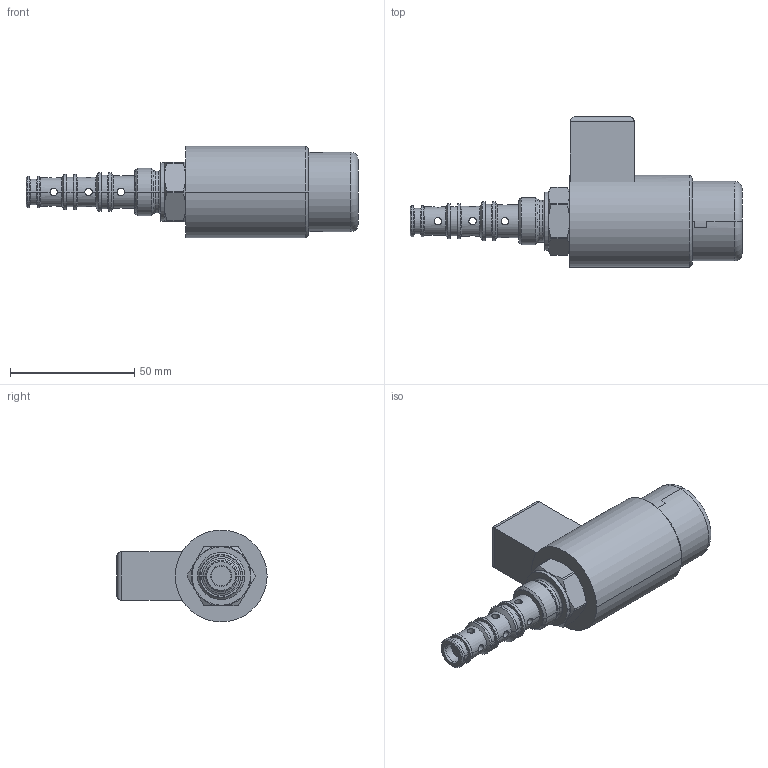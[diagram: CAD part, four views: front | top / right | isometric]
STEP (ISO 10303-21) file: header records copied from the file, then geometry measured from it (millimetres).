
FILE_DESCRIPTION((''),'2;1');
FILE_NAME('SD2E_A4_H','2011-03-14T',('tvatras'),(''),'PRO/ENGINEER BY PARAMETRIC TECHNOLOGY CORPORATION, 2010180','PRO/ENGINEER BY PARAMETRIC TECHNOLOGY CORPORATION, 2010180','');
FILE_SCHEMA(('CONFIG_CONTROL_DESIGN'));
Length unit declared in the file: millimetre
Products named in the file (1): SD2E_A4_H
Bounding box: 133.65 x 60.5 x 37 mm (x, y, z)
Volume: 93651.9 mm3; surface area: 16503.4 mm2
Topology: 1 solids, 2 shells, 147 faces, 347 edges, 203 vertices
Faces by surface type: cylinder 72, cone 30, plane 25, torus 20
Entity records: 4796 total; most frequent: CARTESIAN_POINT 1356, DIRECTION 746, ORIENTED_EDGE 688, EDGE_CURVE 346, AXIS2_PLACEMENT_3D 314, VERTEX_POINT 201, EDGE_LOOP 165, CIRCLE 165
